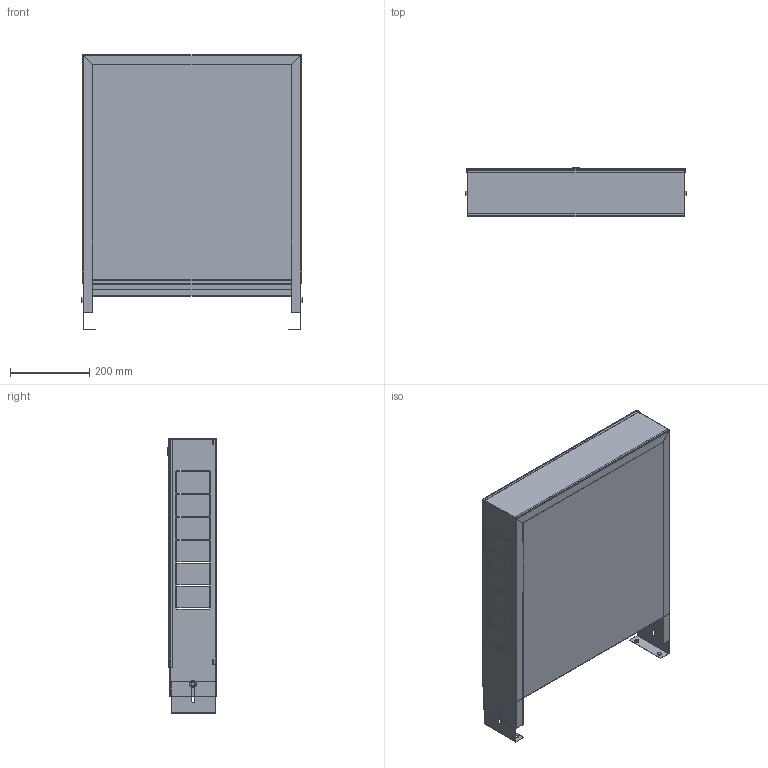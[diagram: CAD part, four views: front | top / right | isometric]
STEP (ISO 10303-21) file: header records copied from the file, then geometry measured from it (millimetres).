
FILE_DESCRIPTION(('TFLEX Exchange Step'),'2;1');
FILE_NAME('Manifold cabinet VTc.541.0.02 Valtec.stp', '2023-10-11T13:40:37+03:00',('denis'),('Unknown organisation'),'TFLEX Exchange 2023.0','T-FLEX CAD','Unknown authorisation');
FILE_SCHEMA( ('AUTOMOTIVE_DESIGN { 1 0 10303 214 1 1 1 1 }') );
Length unit declared in the file: millimetre
Products named in the file (1): Nodes
Bounding box: 559 x 124.9 x 695 mm (x, y, z)
Volume: 818090.3 mm3; surface area: 2045911.6 mm2
Topology: 11 solids, 12 shells, 504 faces, 1315 edges, 849 vertices
Faces by surface type: plane 372, cylinder 87, cone 31, bspline 12, torus 2
Full cylindrical faces by diameter (mm): 6 x4, 6.4 x2, 7 x2, 10 x5, 12 x1, 16 x1, 18 x2, 20 x2
Entity records: 17925 total; most frequent: CARTESIAN_POINT 5444, ORIENTED_EDGE 2630, DIRECTION 2371, EDGE_CURVE 1315, VECTOR 989, LINE 989, VERTEX_POINT 849, AXIS2_PLACEMENT_3D 691
